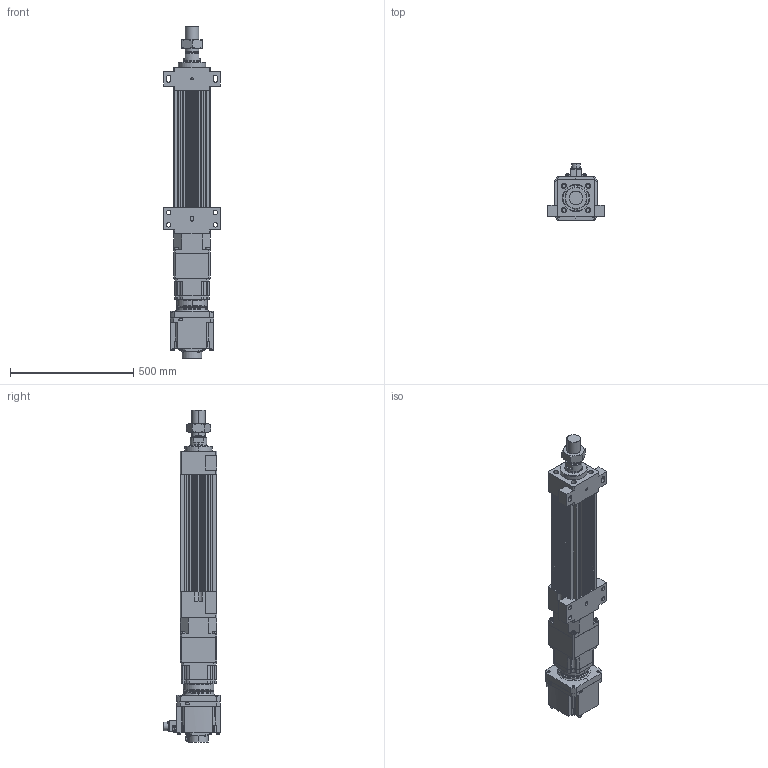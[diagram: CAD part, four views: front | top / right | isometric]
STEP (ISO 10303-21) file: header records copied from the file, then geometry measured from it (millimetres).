
FILE_DESCRIPTION (( 'STEP AP203' ), '1' );
FILE_NAME ('HES150NS(HS)-S200-W035G00-M-FFB.STEP', '2023-01-31T12:30:17', ( 'tms' ), ( '' ), 'SwSTEP 2.0', 'SolidWorks 2013', '' );
FILE_SCHEMA (( 'CONFIG_CONTROL_DESIGN' ));
Length unit declared in the file: millimetre
Products named in the file (9): P1301500001; M56X2.0P; HES150NS(HS)-S200-W035G00-M-FFB; AB142-003[HG-SR352]; HES150-S200-G142-FFB; HES150 ROD M ST200; HG-SR352; AB1421; P0403500801
Assembly tree (8 placements, depth 3):
  HES150NS(HS)-S200-W035G00-M-FFB
    HES150-S200-G142-FFB
    HES150 ROD M ST200
    M56X2.0P
    AB142-003[HG-SR352]
      AB1421
      P1301500001
      P0403500801
    HG-SR352
Bounding box: 230 x 228.85 x 1347.5 mm (x, y, z)
Volume: 15507169.6 mm3; surface area: 1638905.2 mm2
Topology: 5 solids, 23 shells, 1522 faces, 3951 edges, 2569 vertices
Faces by surface type: cylinder 691, plane 599, cone 150, bspline 76, torus 6
Entity records: 55583 total; most frequent: CARTESIAN_POINT 16843, DIRECTION 8091, ORIENTED_EDGE 7808, EDGE_CURVE 3926, AXIS2_PLACEMENT_3D 3042, VERTEX_POINT 2569, VECTOR 2007, LINE 2007
